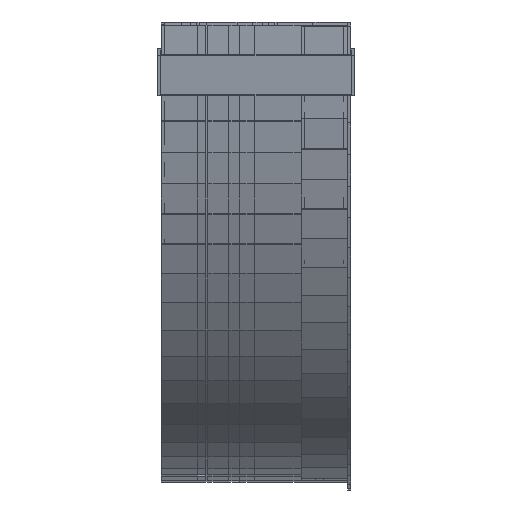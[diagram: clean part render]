
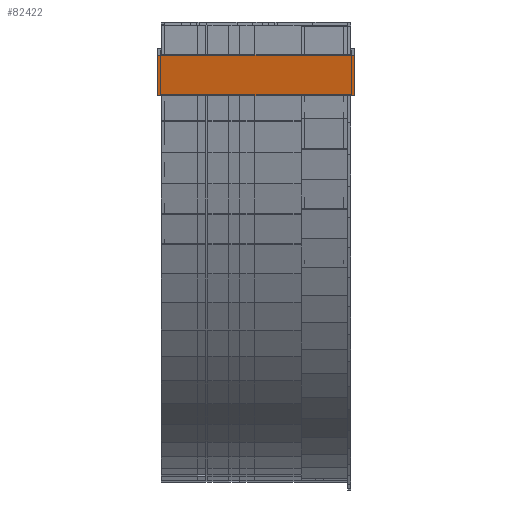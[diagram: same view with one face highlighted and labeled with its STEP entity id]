
A CAD part, left-side view. The second image highlights one B-rep face of the part: STEP entity #82422.
In plain terms, the highlighted planar face has unit normal (-0.986, 0, -0.17).
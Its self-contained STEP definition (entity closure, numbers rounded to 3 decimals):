
#82261=DIRECTION('',(0.0,-1.0,0.0));
#82262=VECTOR('',#82261,126.4);
#82263=CARTESIAN_POINT('',(-260.957,66.2,254.698));
#82264=LINE('',#82263,#82262);
#82265=VERTEX_POINT('',#82263);
#82266=CARTESIAN_POINT('',(-260.957,-60.2,254.698));
#82267=VERTEX_POINT('',#82266);
#82268=EDGE_CURVE('',#82265,#82267,#82264,.T.);
#82277=DIRECTION('',(0.0,1.0,0.0));
#82332=CARTESIAN_POINT('',(-256.476,-60.2,228.699));
#82333=VERTEX_POINT('',#82332);
#82336=VECTOR('',#82277,126.4);
#82337=LINE('',#82332,#82336);
#82338=CARTESIAN_POINT('',(-256.476,66.2,228.699));
#82339=VERTEX_POINT('',#82338);
#82340=EDGE_CURVE('',#82333,#82339,#82337,.T.);
#82397=DIRECTION('',(0.17,0.0,-0.985));
#82398=VECTOR('',#82397,26.382);
#82399=LINE('',#82266,#82398);
#82400=EDGE_CURVE('',#82267,#82333,#82399,.T.);
#82410=ORIENTED_EDGE('',*,*,#82268,.F.);
#82411=VECTOR('',#82397,26.382);
#82412=LINE('',#82263,#82411);
#82413=EDGE_CURVE('',#82265,#82339,#82412,.T.);
#82414=ORIENTED_EDGE('',*,*,#82413,.T.);
#82415=ORIENTED_EDGE('',*,*,#82340,.F.);
#82416=ORIENTED_EDGE('',*,*,#82400,.F.);
#82417=EDGE_LOOP('',(#82410,#82414,#82415,#82416));
#82418=FACE_OUTER_BOUND('',#82417,.T.);
#82419=DIRECTION('',(-0.985,0.0,-0.17));
#82420=AXIS2_PLACEMENT_3D('',#82266,#82419,#82277);
#82421=PLANE('',#82420);
#82422=ADVANCED_FACE('',(#82418),#82421,.T.);
